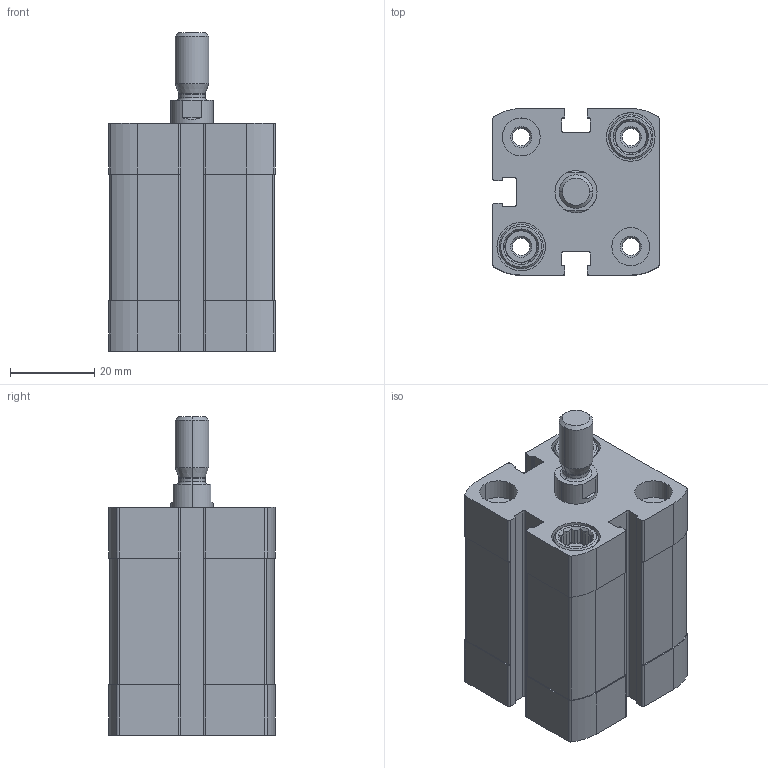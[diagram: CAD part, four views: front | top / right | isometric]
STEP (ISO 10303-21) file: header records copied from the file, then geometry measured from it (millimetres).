
FILE_DESCRIPTION (( 'STEP AP203' ), '1' );
FILE_NAME ('CCN25-15M.STEP', '2017-03-28T17:55:43', ( '' ), ( '' ), 'SwSTEP 2.0', 'SolidWorks 2016', '' );
FILE_SCHEMA (( 'CONFIG_CONTROL_DESIGN' ));
Length unit declared in the file: millimetre
Products named in the file (3): CCN-15---(Z); CCN-15-_(KS); CCN25-15M
Assembly tree (2 placements, depth 2):
  CCN25-15M
    CCN-15---(Z)
    CCN-15-_(KS)
Bounding box: 39.5 x 39.5 x 75.5 mm (x, y, z)
Volume: 65580.1 mm3; surface area: 24989.1 mm2
Topology: 2 solids, 2 shells, 409 faces, 1082 edges, 708 vertices
Faces by surface type: plane 231, cylinder 134, cone 40, bspline 4
Entity records: 13213 total; most frequent: CARTESIAN_POINT 2564, DIRECTION 2218, ORIENTED_EDGE 2164, EDGE_CURVE 1082, AXIS2_PLACEMENT_3D 826, VERTEX_POINT 708, VECTOR 566, LINE 566
